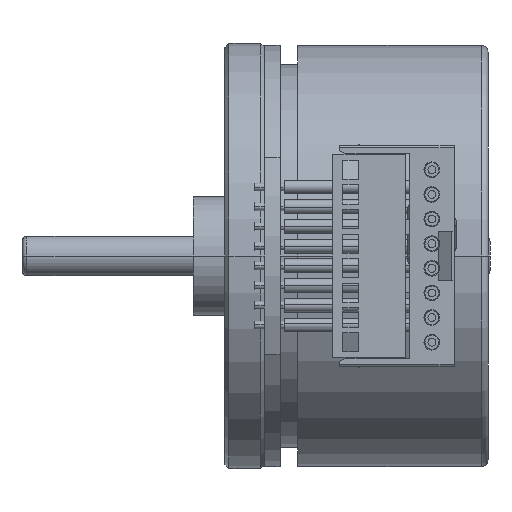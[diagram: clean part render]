
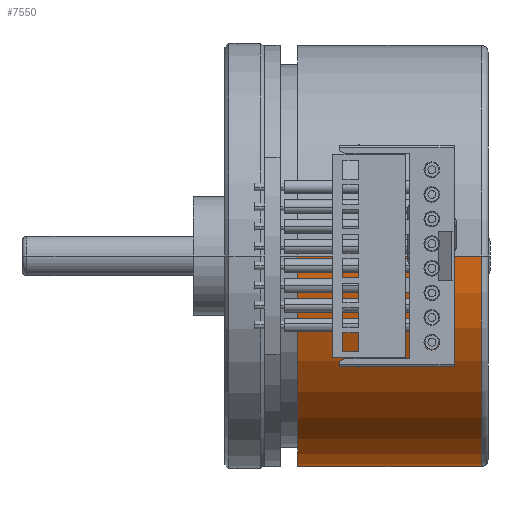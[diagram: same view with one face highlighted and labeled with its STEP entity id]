
A CAD part, front view. The second image highlights one B-rep face of the part: STEP entity #7550.
In plain terms, the highlighted cylindrical face has radius 21.4 mm (diameter 42.8 mm), a partial arc.
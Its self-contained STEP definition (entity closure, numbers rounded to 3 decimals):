
#1878=CARTESIAN_POINT('',(7.4,0.,0.));
#1879=DIRECTION('',(-1.,0.,0.));
#1880=DIRECTION('',(0.,1.,0.));
#1881=AXIS2_PLACEMENT_3D('',#1878,#1879,#1880);
#1894=DIRECTION('',(-1.,0.,0.));
#1895=VECTOR('',#1894,18.6);
#1896=CARTESIAN_POINT('',(26.,21.4,0.));
#1897=LINE('',#1896,#1895);
#1901=DIRECTION('',(-1.,0.,0.));
#1902=VECTOR('',#1901,18.6);
#1903=CARTESIAN_POINT('',(26.,-21.4,0.));
#1904=LINE('',#1903,#1902);
#1908=CARTESIAN_POINT('',(26.,0.,0.));
#1909=DIRECTION('',(-1.,0.,0.));
#1910=DIRECTION('',(0.,1.,0.));
#1911=AXIS2_PLACEMENT_3D('',#1908,#1909,#1910);
#5206=CARTESIAN_POINT('',(26.,21.4,0.));
#5207=CARTESIAN_POINT('',(7.4,21.4,0.));
#5208=VERTEX_POINT('',#5206);
#5209=VERTEX_POINT('',#5207);
#5218=CARTESIAN_POINT('',(26.,-21.4,0.));
#5219=CARTESIAN_POINT('',(7.4,-21.4,0.));
#5220=VERTEX_POINT('',#5218);
#5221=VERTEX_POINT('',#5219);
#7538=CARTESIAN_POINT('',(-25.025,0.,0.));
#7539=DIRECTION('',(1.,0.,0.));
#7540=DIRECTION('',(0.,-1.,0.));
#7541=AXIS2_PLACEMENT_3D('',#7538,#7539,#7540);
#7542=CYLINDRICAL_SURFACE('',#7541,21.4);
#7543=ORIENTED_EDGE('',*,*,#7528,.T.);
#7544=ORIENTED_EDGE('',*,*,#7514,.T.);
#7545=ORIENTED_EDGE('',*,*,#7532,.F.);
#7547=ORIENTED_EDGE('',*,*,#7546,.F.);
#7548=EDGE_LOOP('',(#7543,#7544,#7545,#7547));
#7549=FACE_OUTER_BOUND('',#7548,.F.);
#7550=ADVANCED_FACE('',(#7549),#7542,.T.);
#1882=CIRCLE('',#1881,21.4);
#1912=CIRCLE('',#1911,21.4);
#7514=EDGE_CURVE('',#5209,#5221,#1882,.T.);
#7528=EDGE_CURVE('',#5208,#5209,#1897,.T.);
#7532=EDGE_CURVE('',#5220,#5221,#1904,.T.);
#7546=EDGE_CURVE('',#5208,#5220,#1912,.T.);
